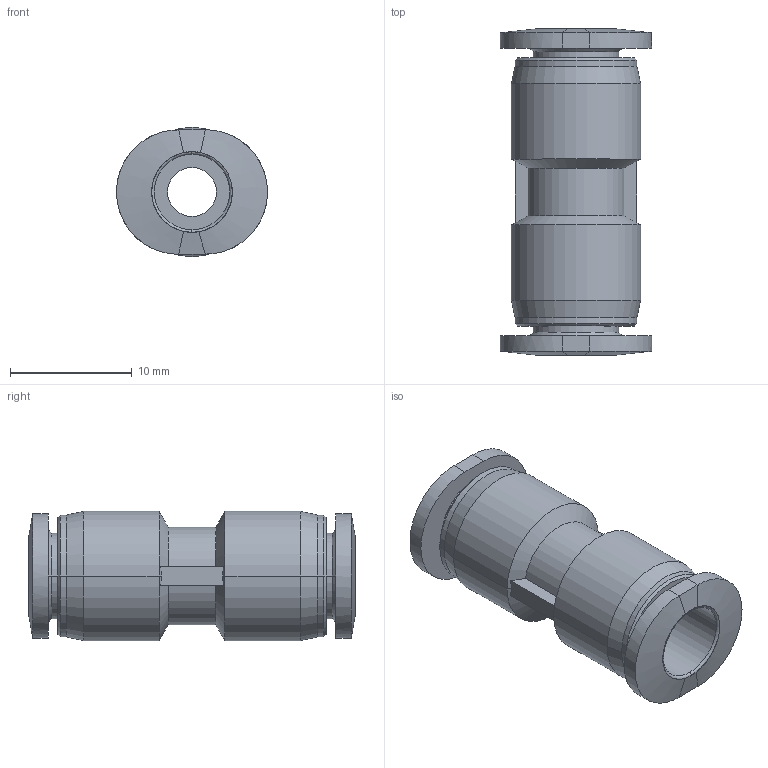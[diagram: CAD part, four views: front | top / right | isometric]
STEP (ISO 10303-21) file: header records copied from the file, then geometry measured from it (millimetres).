
FILE_DESCRIPTION (( 'STEP AP203' ), '1' );
FILE_NAME ('FMH06-00.STEP', '2020-07-07T10:53:35', ( '' ), ( '' ), 'SwSTEP 2.0', 'SolidWorks 2019', '' );
FILE_SCHEMA (( 'CONFIG_CONTROL_DESIGN' ));
Length unit declared in the file: millimetre
Products named in the file (1): FMH06-00
Bounding box: 12.4 x 26.76 x 10.6 mm (x, y, z)
Volume: 1326.3 mm3; surface area: 1770.5 mm2
Topology: 1 solids, 1 shells, 70 faces, 158 edges, 96 vertices
Faces by surface type: cylinder 22, cone 16, bspline 14, plane 14, torus 4
Entity records: 2503 total; most frequent: CARTESIAN_POINT 925, ORIENTED_EDGE 316, DIRECTION 308, EDGE_CURVE 158, AXIS2_PLACEMENT_3D 125, VERTEX_POINT 96, EDGE_LOOP 78, FACE_OUTER_BOUND 70
